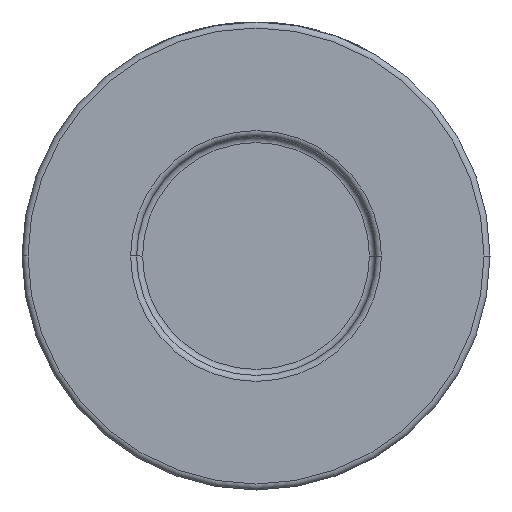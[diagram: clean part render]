
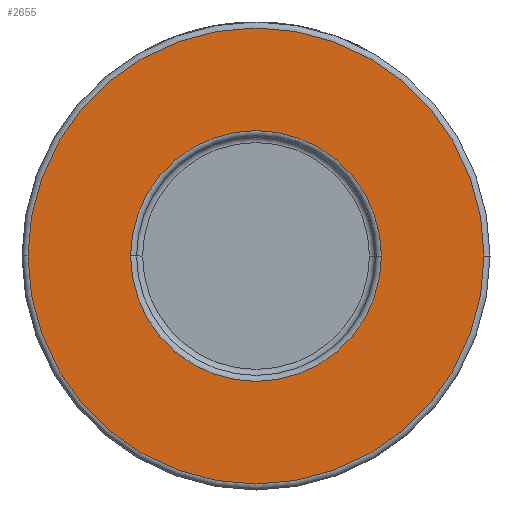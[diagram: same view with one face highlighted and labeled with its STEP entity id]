
A CAD part, front view. The second image highlights one B-rep face of the part: STEP entity #2655.
In plain terms, the highlighted planar face has unit normal (0, -1, 0).
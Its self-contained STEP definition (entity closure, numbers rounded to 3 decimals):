
#9 = VERTEX_POINT ( 'NONE', #2995 ) ;
#89 = DIRECTION ( 'NONE',  ( 1., 0., 0. ) ) ;
#193 = CARTESIAN_POINT ( 'NONE',  ( 39., -26., 0. ) ) ;
#196 = CIRCLE ( 'NONE', #278, 20.9 ) ;
#276 = AXIS2_PLACEMENT_3D ( 'NONE', #4283, #2933, #1106 ) ;
#278 = AXIS2_PLACEMENT_3D ( 'NONE', #2903, #2247, #89 ) ;
#382 = CARTESIAN_POINT ( 'NONE',  ( -38., -26., 0. ) ) ;
#397 = EDGE_LOOP ( 'NONE', ( #1231, #1720 ) ) ;
#433 = AXIS2_PLACEMENT_3D ( 'NONE', #193, #3335, #4418 ) ;
#563 = FACE_BOUND ( 'NONE', #3543, .T. ) ;
#591 = FACE_OUTER_BOUND ( 'NONE', #397, .T. ) ;
#1106 = DIRECTION ( 'NONE',  ( 1., 0., 0. ) ) ;
#1181 = EDGE_CURVE ( 'NONE', #2895, #1508, #3962, .T. ) ;
#1231 = ORIENTED_EDGE ( 'NONE', *, *, #3451, .T. ) ;
#1286 = PLANE ( 'NONE',  #433 ) ;
#1460 = DIRECTION ( 'NONE',  ( 0., -1., 0. ) ) ;
#1508 = VERTEX_POINT ( 'NONE', #1869 ) ;
#1720 = ORIENTED_EDGE ( 'NONE', *, *, #1181, .T. ) ;
#1869 = CARTESIAN_POINT ( 'NONE',  ( 38., -26., 0. ) ) ;
#1954 = DIRECTION ( 'NONE',  ( 1., 0., 0. ) ) ;
#2229 = EDGE_CURVE ( 'NONE', #9, #3777, #196, .T. ) ;
#2247 = DIRECTION ( 'NONE',  ( 0., 1., 0. ) ) ;
#2655 = ADVANCED_FACE ( 'NONE', ( #563, #591 ), #1286, .T. ) ;
#2863 = CARTESIAN_POINT ( 'NONE',  ( 0., -26., 0. ) ) ;
#2883 = EDGE_CURVE ( 'NONE', #3777, #9, #3847, .T. ) ;
#2895 = VERTEX_POINT ( 'NONE', #382 ) ;
#2903 = CARTESIAN_POINT ( 'NONE',  ( 0., -26., 0. ) ) ;
#2933 = DIRECTION ( 'NONE',  ( 0., 1., 0. ) ) ;
#2982 = DIRECTION ( 'NONE',  ( 0., -1., 0. ) ) ;
#2995 = CARTESIAN_POINT ( 'NONE',  ( -20.9, -26., 0. ) ) ;
#3101 = CIRCLE ( 'NONE', #3988, 38. ) ;
#3335 = DIRECTION ( 'NONE',  ( 0., -1., 0. ) ) ;
#3451 = EDGE_CURVE ( 'NONE', #1508, #2895, #3101, .T. ) ;
#3543 = EDGE_LOOP ( 'NONE', ( #4371, #3744 ) ) ;
#3744 = ORIENTED_EDGE ( 'NONE', *, *, #2229, .T. ) ;
#3777 = VERTEX_POINT ( 'NONE', #4385 ) ;
#3847 = CIRCLE ( 'NONE', #276, 20.9 ) ;
#3962 = CIRCLE ( 'NONE', #4031, 38. ) ;
#3988 = AXIS2_PLACEMENT_3D ( 'NONE', #4072, #2982, #1954 ) ;
#4031 = AXIS2_PLACEMENT_3D ( 'NONE', #2863, #1460, #4229 ) ;
#4072 = CARTESIAN_POINT ( 'NONE',  ( 0., -26., 0. ) ) ;
#4229 = DIRECTION ( 'NONE',  ( 1., 0., 0. ) ) ;
#4283 = CARTESIAN_POINT ( 'NONE',  ( 0., -26., 0. ) ) ;
#4371 = ORIENTED_EDGE ( 'NONE', *, *, #2883, .T. ) ;
#4385 = CARTESIAN_POINT ( 'NONE',  ( 20.9, -26., 0. ) ) ;
#4418 = DIRECTION ( 'NONE',  ( 1., 0., 0. ) ) ;
